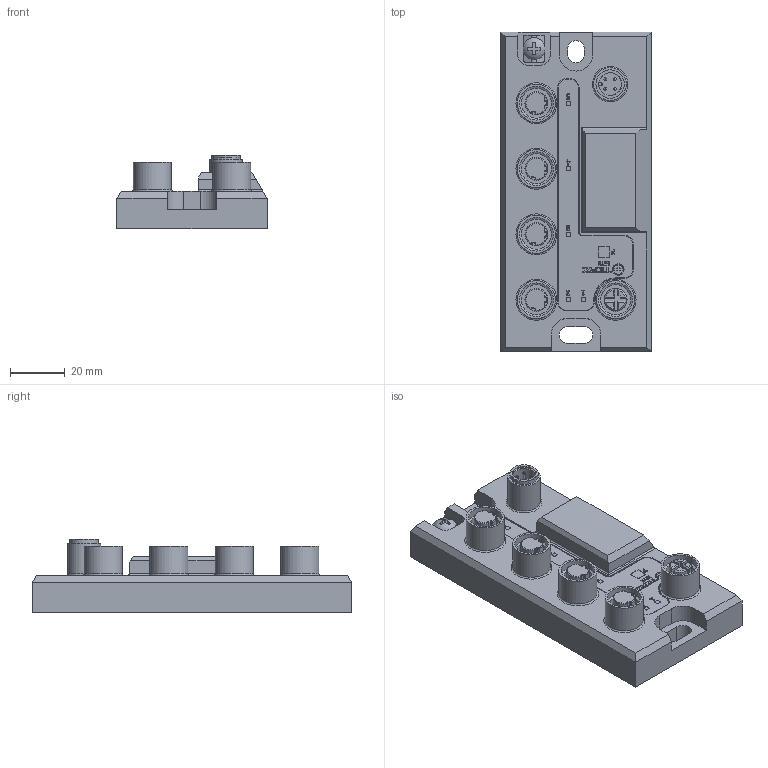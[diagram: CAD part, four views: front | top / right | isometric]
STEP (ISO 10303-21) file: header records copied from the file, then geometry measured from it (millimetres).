
FILE_DESCRIPTION(('TFLEX Exchange Step'),'2;1');
FILE_NAME('TZCA431410XA_NITE-XS41-310X.stp', '2021-05-03T15:49:31+02:00',('User'),('Unknown organisation'),'TFLEX Exchange 2019.0','T-FLEX CAD','Unknown authorisation');
FILE_SCHEMA( ('AUTOMOTIVE_DESIGN { 1 0 10303 214 1 1 1 1 }') );
Length unit declared in the file: millimetre
Products named in the file (1): Körper_1 - 3D-Fragment_1:1
Bounding box: 55 x 117 x 27.1 mm (x, y, z)
Volume: 96110.6 mm3; surface area: 26271.7 mm2
Topology: 6 solids, 6 shells, 709 faces, 1827 edges, 1173 vertices
Faces by surface type: plane 336, cylinder 176, bspline 93, torus 66, cone 24, sphere 9, extrusion 5
Full cylindrical faces by diameter (mm): 1 x4, 4 x2, 4.3 x1, 8 x1, 8.2 x5, 8.4 x5, 9.6 x1, 10.4 x1, 11 x5, 12 x1, 12.2 x5, 12.35 x5, 14 x5
Entity records: 23455 total; most frequent: CARTESIAN_POINT 6291, ORIENTED_EDGE 3638, DIRECTION 3403, EDGE_CURVE 1819, VERTEX_POINT 1173, AXIS2_PLACEMENT_3D 1172, VECTOR 1059, LINE 1054
